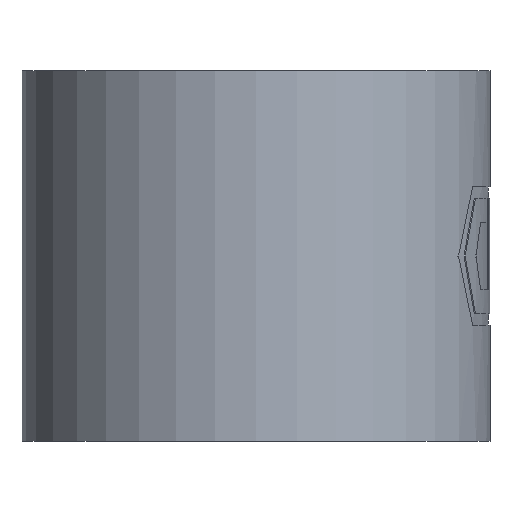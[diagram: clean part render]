
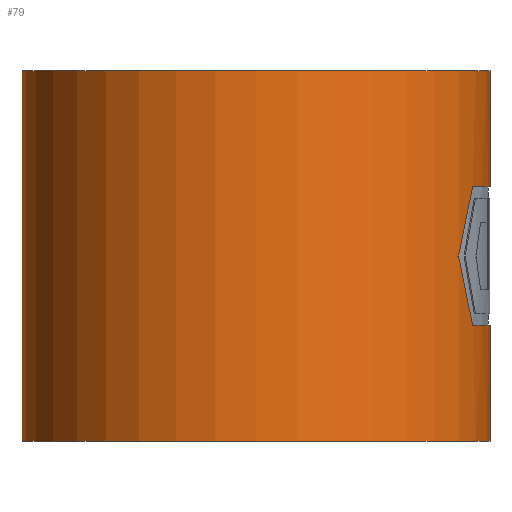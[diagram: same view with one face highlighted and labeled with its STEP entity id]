
A CAD part, front view. The second image highlights one B-rep face of the part: STEP entity #79.
In plain terms, the highlighted cylindrical face has radius 4.1 mm (diameter 8.2 mm), a partial arc.
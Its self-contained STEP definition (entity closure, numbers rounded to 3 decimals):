
#3 = EDGE_CURVE ( 'NONE', #1431, #395, #493, .T. ) ;
#63 = ORIENTED_EDGE ( 'NONE', *, *, #3, .F. ) ;
#70 = EDGE_CURVE ( 'NONE', #460, #1460, #592, .T. ) ;
#79 = ADVANCED_FACE ( 'NONE', ( #633 ), #627, .T. ) ;
#86 = ORIENTED_EDGE ( 'NONE', *, *, #399, .T. ) ;
#87 = ORIENTED_EDGE ( 'NONE', *, *, #88, .T. ) ;
#88 = EDGE_CURVE ( 'NONE', #408, #400, #612, .T. ) ;
#89 = EDGE_LOOP ( 'NONE', ( #94, #95, #86, #87, #1439, #63, #1456, #1430, #1474 ) ) ;
#94 = ORIENTED_EDGE ( 'NONE', *, *, #459, .F. ) ;
#95 = ORIENTED_EDGE ( 'NONE', *, *, #96, .F. ) ;
#96 = EDGE_CURVE ( 'NONE', #385, #384, #655, .T. ) ;
#384 = VERTEX_POINT ( 'NONE', #1106 ) ;
#385 = VERTEX_POINT ( 'NONE', #1105 ) ;
#395 = VERTEX_POINT ( 'NONE', #1151 ) ;
#399 = EDGE_CURVE ( 'NONE', #385, #408, #1145, .T. ) ;
#400 = VERTEX_POINT ( 'NONE', #1141 ) ;
#402 = EDGE_CURVE ( 'NONE', #395, #400, #1140, .T. ) ;
#408 = VERTEX_POINT ( 'NONE', #1190 ) ;
#459 = EDGE_CURVE ( 'NONE', #384, #460, #1278, .T. ) ;
#460 = VERTEX_POINT ( 'NONE', #1274 ) ;
#489 = DIRECTION ( 'NONE',  ( 1., 0., 0. ) ) ;
#490 = DIRECTION ( 'NONE',  ( 0., 0., 1. ) ) ;
#491 = CARTESIAN_POINT ( 'NONE',  ( 0., 0., 2.035 ) ) ;
#492 = AXIS2_PLACEMENT_3D ( 'NONE', #491, #490, #489 ) ;
#493 = CIRCLE ( 'NONE', #492, 4.1 ) ;
#588 = DIRECTION ( 'NONE',  ( 0., 1., 0. ) ) ;
#589 = DIRECTION ( 'NONE',  ( 0., 0., -1. ) ) ;
#590 = CARTESIAN_POINT ( 'NONE',  ( 0., 0., 4.465 ) ) ;
#591 = AXIS2_PLACEMENT_3D ( 'NONE', #590, #589, #588 ) ;
#592 = CIRCLE ( 'NONE', #591, 4.1 ) ;
#609 = DIRECTION ( 'NONE',  ( 0., 0., 1. ) ) ;
#610 = CARTESIAN_POINT ( 'NONE',  ( 0., 0., 0. ) ) ;
#611 = AXIS2_PLACEMENT_3D ( 'NONE', #610, #609, #663 ) ;
#612 = CIRCLE ( 'NONE', #611, 4.1 ) ;
#623 = DIRECTION ( 'NONE',  ( -1., 0., 0. ) ) ;
#624 = DIRECTION ( 'NONE',  ( 0., 0., -1. ) ) ;
#625 = CARTESIAN_POINT ( 'NONE',  ( 0., 0., 6.5 ) ) ;
#626 = AXIS2_PLACEMENT_3D ( 'NONE', #625, #624, #623 ) ;
#627 = CYLINDRICAL_SURFACE ( 'NONE', #626, 4.1 ) ;
#633 = FACE_OUTER_BOUND ( 'NONE', #89, .T. ) ;
#651 = DIRECTION ( 'NONE',  ( 1., 0., 0. ) ) ;
#652 = DIRECTION ( 'NONE',  ( 0., 0., 1. ) ) ;
#653 = CARTESIAN_POINT ( 'NONE',  ( 0., 0., 6.5 ) ) ;
#654 = AXIS2_PLACEMENT_3D ( 'NONE', #653, #652, #651 ) ;
#655 = CIRCLE ( 'NONE', #654, 4.1 ) ;
#663 = DIRECTION ( 'NONE',  ( 1., 0., 0. ) ) ;
#1105 = CARTESIAN_POINT ( 'NONE',  ( -4.1, 0., 6.5 ) ) ;
#1106 = CARTESIAN_POINT ( 'NONE',  ( 4.1, 0., 6.5 ) ) ;
#1137 = DIRECTION ( 'NONE',  ( 0., 0., -1. ) ) ;
#1138 = VECTOR ( 'NONE', #1137, 1000. ) ;
#1139 = CARTESIAN_POINT ( 'NONE',  ( 4.1, 0., 6.5 ) ) ;
#1140 = LINE ( 'NONE', #1139, #1138 ) ;
#1141 = CARTESIAN_POINT ( 'NONE',  ( 4.1, 0., 0. ) ) ;
#1142 = DIRECTION ( 'NONE',  ( 0., 0., -1. ) ) ;
#1143 = VECTOR ( 'NONE', #1142, 1000. ) ;
#1144 = CARTESIAN_POINT ( 'NONE',  ( -4.1, 0., 6.5 ) ) ;
#1145 = LINE ( 'NONE', #1144, #1143 ) ;
#1151 = CARTESIAN_POINT ( 'NONE',  ( 4.1, 0., 2.035 ) ) ;
#1190 = CARTESIAN_POINT ( 'NONE',  ( -4.1, 0., 0. ) ) ;
#1251 = CARTESIAN_POINT ( 'NONE',  ( 3.796, -1.549, 2.035 ) ) ;
#1274 = CARTESIAN_POINT ( 'NONE',  ( 4.1, 0., 4.465 ) ) ;
#1275 = DIRECTION ( 'NONE',  ( 0., 0., -1. ) ) ;
#1276 = VECTOR ( 'NONE', #1275, 1000. ) ;
#1277 = CARTESIAN_POINT ( 'NONE',  ( 4.1, 0., 6.5 ) ) ;
#1278 = LINE ( 'NONE', #1277, #1276 ) ;
#1287 = CARTESIAN_POINT ( 'NONE',  ( 3.55, -2.052, 3.25 ) ) ;
#1301 = CARTESIAN_POINT ( 'NONE',  ( 3.55, -2.052, 3.25 ) ) ;
#1302 = CARTESIAN_POINT ( 'NONE',  ( 3.639, -1.898, 2.877 ) ) ;
#1303 = CARTESIAN_POINT ( 'NONE',  ( 3.722, -1.73, 2.472 ) ) ;
#1304 = CARTESIAN_POINT ( 'NONE',  ( 3.796, -1.549, 2.035 ) ) ;
#1306 = B_SPLINE_CURVE_WITH_KNOTS ( 'NONE', 3,
 ( #1304, #1303, #1302, #1301 ),
 .UNSPECIFIED., .F., .F.,
 ( 4, 4 ),
 ( 0., 1. ),
 .UNSPECIFIED. ) ;
#1311 = B_SPLINE_CURVE_WITH_KNOTS ( 'NONE', 3,
 ( #1351, #1350, #1349, #1348 ),
 .UNSPECIFIED., .F., .F.,
 ( 4, 4 ),
 ( 0., 1. ),
 .UNSPECIFIED. ) ;
#1332 = CARTESIAN_POINT ( 'NONE',  ( 3.796, -1.549, 4.465 ) ) ;
#1348 = CARTESIAN_POINT ( 'NONE',  ( 3.55, -2.052, 3.25 ) ) ;
#1349 = CARTESIAN_POINT ( 'NONE',  ( 3.643, -1.89, 3.641 ) ) ;
#1350 = CARTESIAN_POINT ( 'NONE',  ( 3.725, -1.722, 4.046 ) ) ;
#1351 = CARTESIAN_POINT ( 'NONE',  ( 3.796, -1.549, 4.465 ) ) ;
#1430 = ORIENTED_EDGE ( 'NONE', *, *, #1473, .F. ) ;
#1431 = VERTEX_POINT ( 'NONE', #1251 ) ;
#1433 = EDGE_CURVE ( 'NONE', #1431, #1453, #1306, .T. ) ;
#1439 = ORIENTED_EDGE ( 'NONE', *, *, #402, .F. ) ;
#1453 = VERTEX_POINT ( 'NONE', #1287 ) ;
#1456 = ORIENTED_EDGE ( 'NONE', *, *, #1433, .T. ) ;
#1460 = VERTEX_POINT ( 'NONE', #1332 ) ;
#1473 = EDGE_CURVE ( 'NONE', #1460, #1453, #1311, .T. ) ;
#1474 = ORIENTED_EDGE ( 'NONE', *, *, #70, .F. ) ;
